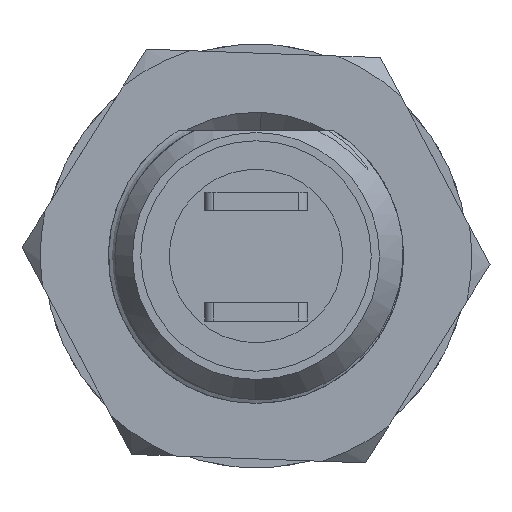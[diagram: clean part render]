
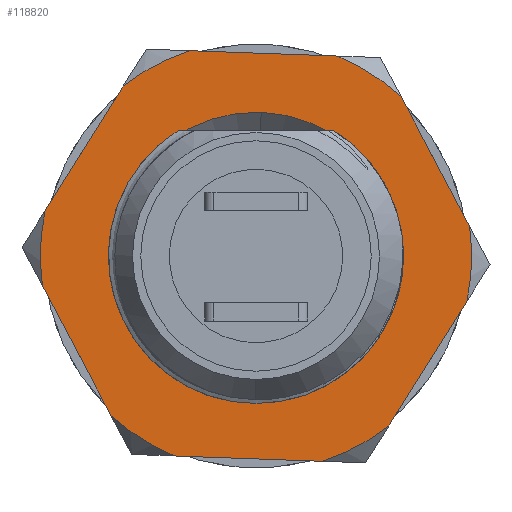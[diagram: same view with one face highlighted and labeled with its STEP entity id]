
A CAD part, left-side view. The second image highlights one B-rep face of the part: STEP entity #118820.
In plain terms, the highlighted planar face has unit normal (-1, 0, 0) as drawn and (0, 0, 1) by its records, which use the part's own axes.
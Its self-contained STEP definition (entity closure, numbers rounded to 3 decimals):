
#1016 = VERTEX_POINT ( 'NONE', #95154 ) ;
#1270 = EDGE_CURVE ( 'NONE', #102506, #178317, #25913, .T. ) ;
#1631 = CARTESIAN_POINT ( 'NONE',  ( -4.478, 3.765, 2. ) ) ;
#2038 = AXIS2_PLACEMENT_3D ( 'NONE', #146852, #63633, #160841 ) ;
#2280 = DIRECTION ( 'NONE',  ( 0., 0., 1. ) ) ;
#2736 = VERTEX_POINT ( 'NONE', #120792 ) ;
#3464 = CARTESIAN_POINT ( 'NONE',  ( -5.5, 3.175, 2. ) ) ;
#5133 = CARTESIAN_POINT ( 'NONE',  ( -3.9, 0., 2. ) ) ;
#7318 = CARTESIAN_POINT ( 'NONE',  ( 0., 0., 2. ) ) ;
#9949 = EDGE_CURVE ( 'NONE', #2736, #115270, #21192, .T. ) ;
#12724 = DIRECTION ( 'NONE',  ( -1., 0., 0. ) ) ;
#13825 = EDGE_CURVE ( 'NONE', #115270, #62571, #125671, .T. ) ;
#14816 = VECTOR ( 'NONE', #152164, 1000. ) ;
#15508 = VERTEX_POINT ( 'NONE', #154517 ) ;
#18255 = VECTOR ( 'NONE', #41022, 1000. ) ;
#21014 = LINE ( 'NONE', #3464, #169046 ) ;
#21192 = CIRCLE ( 'NONE', #91871, 5.851 ) ;
#21262 = DIRECTION ( 'NONE',  ( -1., 0., 0. ) ) ;
#22433 = ORIENTED_EDGE ( 'NONE', *, *, #13825, .T. ) ;
#25913 = CIRCLE ( 'NONE', #152451, 3.9 ) ;
#27459 = VECTOR ( 'NONE', #140205, 1000. ) ;
#28718 = AXIS2_PLACEMENT_3D ( 'NONE', #155899, #72660, #169897 ) ;
#29403 = CARTESIAN_POINT ( 'NONE',  ( 4.478, -3.765, 2. ) ) ;
#30175 = CARTESIAN_POINT ( 'NONE',  ( 0., 0., 2. ) ) ;
#30394 = EDGE_LOOP ( 'NONE', ( #51342, #139506 ) ) ;
#32401 = PLANE ( 'NONE',  #124987 ) ;
#34057 = CARTESIAN_POINT ( 'NONE',  ( 0., -6.351, 2. ) ) ;
#34487 = CARTESIAN_POINT ( 'NONE',  ( 0., 0., 2. ) ) ;
#37410 = ORIENTED_EDGE ( 'NONE', *, *, #126294, .T. ) ;
#41022 = DIRECTION ( 'NONE',  ( -0.866, 0.5, 0. ) ) ;
#42762 = EDGE_CURVE ( 'NONE', #71814, #2736, #21014, .T. ) ;
#44166 = DIRECTION ( 'NONE',  ( -1., 0., 0. ) ) ;
#46367 = DIRECTION ( 'NONE',  ( -1., 0., 0. ) ) ;
#46829 = CIRCLE ( 'NONE', #2038, 3.9 ) ;
#49482 = DIRECTION ( 'NONE',  ( 0., 0., -1. ) ) ;
#51342 = ORIENTED_EDGE ( 'NONE', *, *, #56076, .T. ) ;
#51876 = ORIENTED_EDGE ( 'NONE', *, *, #9949, .T. ) ;
#52259 = DIRECTION ( 'NONE',  ( -0.866, -0.5, 0. ) ) ;
#54258 = AXIS2_PLACEMENT_3D ( 'NONE', #132724, #49482, #146687 ) ;
#56076 = EDGE_CURVE ( 'NONE', #178317, #102506, #46829, .T. ) ;
#58652 = EDGE_CURVE ( 'NONE', #116975, #172861, #131544, .T. ) ;
#62571 = VERTEX_POINT ( 'NONE', #72318 ) ;
#63633 = DIRECTION ( 'NONE',  ( 0., 0., -1. ) ) ;
#64236 = LINE ( 'NONE', #126234, #27459 ) ;
#67412 = ORIENTED_EDGE ( 'NONE', *, *, #180158, .T. ) ;
#71814 = VERTEX_POINT ( 'NONE', #88181 ) ;
#72318 = CARTESIAN_POINT ( 'NONE',  ( -1.022, -5.761, 2. ) ) ;
#72660 = DIRECTION ( 'NONE',  ( 0., 0., 1. ) ) ;
#78979 = VERTEX_POINT ( 'NONE', #135336 ) ;
#85514 = CARTESIAN_POINT ( 'NONE',  ( 0., 0., 2. ) ) ;
#85869 = CIRCLE ( 'NONE', #174518, 5.851 ) ;
#86689 = DIRECTION ( 'NONE',  ( 0., -1., 0. ) ) ;
#86940 = CARTESIAN_POINT ( 'NONE',  ( 5.5, -1.996, 2. ) ) ;
#87722 = CARTESIAN_POINT ( 'NONE',  ( 5.5, 3.175, 2. ) ) ;
#88181 = CARTESIAN_POINT ( 'NONE',  ( -5.5, 1.996, 2. ) ) ;
#89288 = VERTEX_POINT ( 'NONE', #86940 ) ;
#89848 = ORIENTED_EDGE ( 'NONE', *, *, #107920, .T. ) ;
#90255 = VECTOR ( 'NONE', #145229, 1000. ) ;
#91871 = AXIS2_PLACEMENT_3D ( 'NONE', #7318, #104519, #21262 ) ;
#95154 = CARTESIAN_POINT ( 'NONE',  ( -1.022, 5.761, 2. ) ) ;
#95956 = DIRECTION ( 'NONE',  ( 0., 0., 1. ) ) ;
#99446 = EDGE_CURVE ( 'NONE', #15508, #173327, #173526, .T. ) ;
#99475 = DIRECTION ( 'NONE',  ( -1., 0., 0. ) ) ;
#102275 = ORIENTED_EDGE ( 'NONE', *, *, #141715, .F. ) ;
#102506 = VERTEX_POINT ( 'NONE', #5133 ) ;
#104519 = DIRECTION ( 'NONE',  ( 0., 0., 1. ) ) ;
#105619 = AXIS2_PLACEMENT_3D ( 'NONE', #179209, #95956, #12724 ) ;
#105735 = FACE_OUTER_BOUND ( 'NONE', #151078, .T. ) ;
#107920 = EDGE_CURVE ( 'NONE', #1016, #147688, #131996, .T. ) ;
#108104 = CARTESIAN_POINT ( 'NONE',  ( 3.9, 0., 2. ) ) ;
#108411 = ORIENTED_EDGE ( 'NONE', *, *, #171953, .T. ) ;
#109113 = DIRECTION ( 'NONE',  ( -1., 0., 0. ) ) ;
#115270 = VERTEX_POINT ( 'NONE', #157270 ) ;
#116975 = VERTEX_POINT ( 'NONE', #138372 ) ;
#118820 = ADVANCED_FACE ( 'NONE', ( #179874, #105735 ), #32401, .F. ) ;
#120792 = CARTESIAN_POINT ( 'NONE',  ( -5.5, -1.996, 2. ) ) ;
#121519 = CARTESIAN_POINT ( 'NONE',  ( 0., 6.351, 2. ) ) ;
#124987 = AXIS2_PLACEMENT_3D ( 'NONE', #87722, #129592, #46367 ) ;
#125671 = LINE ( 'NONE', #138181, #14816 ) ;
#126234 = CARTESIAN_POINT ( 'NONE',  ( 5.5, -3.175, 2. ) ) ;
#126294 = EDGE_CURVE ( 'NONE', #89288, #15508, #64236, .T. ) ;
#126550 = ORIENTED_EDGE ( 'NONE', *, *, #146900, .T. ) ;
#127382 = DIRECTION ( 'NONE',  ( 0., 0., 1. ) ) ;
#129592 = DIRECTION ( 'NONE',  ( 0., 0., -1. ) ) ;
#131544 = LINE ( 'NONE', #34057, #90255 ) ;
#131996 = LINE ( 'NONE', #121519, #169141 ) ;
#132724 = CARTESIAN_POINT ( 'NONE',  ( 0., 0., 2. ) ) ;
#134806 = ORIENTED_EDGE ( 'NONE', *, *, #180176, .T. ) ;
#135336 = CARTESIAN_POINT ( 'NONE',  ( 1.022, 5.761, 2. ) ) ;
#137281 = DIRECTION ( 'NONE',  ( 0., 0., -1. ) ) ;
#138181 = CARTESIAN_POINT ( 'NONE',  ( -5.5, -3.175, 2. ) ) ;
#138372 = CARTESIAN_POINT ( 'NONE',  ( 1.022, -5.761, 2. ) ) ;
#139506 = ORIENTED_EDGE ( 'NONE', *, *, #1270, .T. ) ;
#140205 = DIRECTION ( 'NONE',  ( 0., 1., 0. ) ) ;
#140577 = CARTESIAN_POINT ( 'NONE',  ( 4.478, 3.765, 2. ) ) ;
#141715 = EDGE_CURVE ( 'NONE', #71814, #147688, #162444, .T. ) ;
#145229 = DIRECTION ( 'NONE',  ( 0.866, 0.5, 0. ) ) ;
#146523 = AXIS2_PLACEMENT_3D ( 'NONE', #85514, #2280, #99475 ) ;
#146687 = DIRECTION ( 'NONE',  ( -1., 0., 0. ) ) ;
#146852 = CARTESIAN_POINT ( 'NONE',  ( 0., 0., 2. ) ) ;
#146900 = EDGE_CURVE ( 'NONE', #172861, #89288, #151584, .T. ) ;
#147688 = VERTEX_POINT ( 'NONE', #1631 ) ;
#150967 = CARTESIAN_POINT ( 'NONE',  ( 5.5, 3.175, 2. ) ) ;
#151078 = EDGE_LOOP ( 'NONE', ( #151898, #51876, #22433, #67412, #156275, #126550, #37410, #152874, #108411, #134806, #89848, #102275 ) ) ;
#151584 = CIRCLE ( 'NONE', #28718, 5.851 ) ;
#151898 = ORIENTED_EDGE ( 'NONE', *, *, #42762, .T. ) ;
#152164 = DIRECTION ( 'NONE',  ( 0.866, -0.5, 0. ) ) ;
#152451 = AXIS2_PLACEMENT_3D ( 'NONE', #34487, #137281, #109113 ) ;
#152874 = ORIENTED_EDGE ( 'NONE', *, *, #99446, .T. ) ;
#154517 = CARTESIAN_POINT ( 'NONE',  ( 5.5, 1.996, 2. ) ) ;
#155899 = CARTESIAN_POINT ( 'NONE',  ( 0., 0., 2. ) ) ;
#156275 = ORIENTED_EDGE ( 'NONE', *, *, #58652, .T. ) ;
#157270 = CARTESIAN_POINT ( 'NONE',  ( -4.478, -3.765, 2. ) ) ;
#159612 = CIRCLE ( 'NONE', #146523, 5.851 ) ;
#160841 = DIRECTION ( 'NONE',  ( -1., 0., 0. ) ) ;
#162444 = CIRCLE ( 'NONE', #54258, 5.851 ) ;
#166288 = LINE ( 'NONE', #150967, #18255 ) ;
#169046 = VECTOR ( 'NONE', #86689, 1000. ) ;
#169141 = VECTOR ( 'NONE', #52259, 1000. ) ;
#169897 = DIRECTION ( 'NONE',  ( -1., 0., 0. ) ) ;
#171953 = EDGE_CURVE ( 'NONE', #173327, #78979, #166288, .T. ) ;
#172861 = VERTEX_POINT ( 'NONE', #29403 ) ;
#173327 = VERTEX_POINT ( 'NONE', #140577 ) ;
#173526 = CIRCLE ( 'NONE', #105619, 5.851 ) ;
#174518 = AXIS2_PLACEMENT_3D ( 'NONE', #30175, #127382, #44166 ) ;
#178317 = VERTEX_POINT ( 'NONE', #108104 ) ;
#179209 = CARTESIAN_POINT ( 'NONE',  ( 0., 0., 2. ) ) ;
#179874 = FACE_BOUND ( 'NONE', #30394, .T. ) ;
#180158 = EDGE_CURVE ( 'NONE', #62571, #116975, #159612, .T. ) ;
#180176 = EDGE_CURVE ( 'NONE', #78979, #1016, #85869, .T. ) ;
